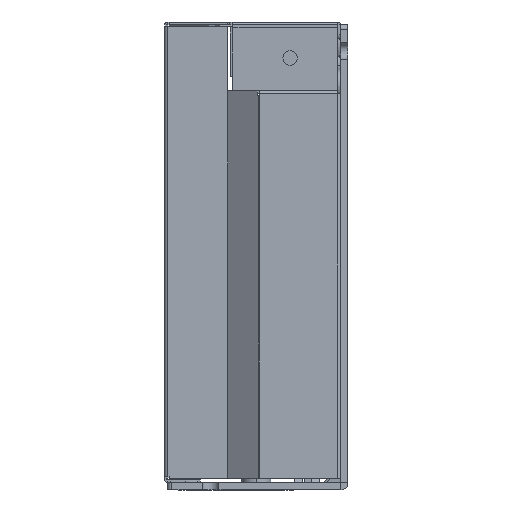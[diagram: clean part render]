
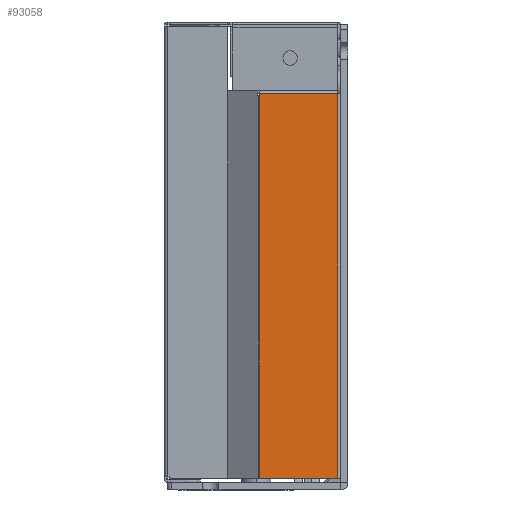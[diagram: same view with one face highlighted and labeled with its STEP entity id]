
A CAD part, left-side view. The second image highlights one B-rep face of the part: STEP entity #93058.
In plain terms, the highlighted planar face has unit normal (-1, 0, 0) as drawn and (1, 0, 0) by its records, which use the part's own axes.
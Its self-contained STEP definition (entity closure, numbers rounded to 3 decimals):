
#57410=DIRECTION('',(0.,0.,-1.));
#57411=VECTOR('',#57410,79.7);
#57412=CARTESIAN_POINT('',(80.,-35.9,-0.3));
#57413=LINE('',#57412,#57411);
#57796=DIRECTION('',(0.,-1.,0.));
#57797=VECTOR('',#57796,16.176);
#57798=CARTESIAN_POINT('',(80.,-19.724,-0.3));
#57799=LINE('',#57798,#57797);
#57803=DIRECTION('',(0.,0.,1.));
#57804=VECTOR('',#57803,0.15);
#57805=CARTESIAN_POINT('',(80.,-19.724,-80.));
#57806=LINE('',#57805,#57804);
#57810=DIRECTION('',(0.,0.,1.));
#57811=VECTOR('',#57810,79.55);
#57812=CARTESIAN_POINT('',(80.,-19.724,-79.85));
#57813=LINE('',#57812,#57811);
#57833=DIRECTION('',(0.,-1.,0.));
#57834=VECTOR('',#57833,16.176);
#57835=CARTESIAN_POINT('',(80.,-19.724,-80.));
#57836=LINE('',#57835,#57834);
#75054=CARTESIAN_POINT('',(80.,-19.724,-0.3));
#75055=VERTEX_POINT('',#75054);
#75056=CARTESIAN_POINT('',(80.,-35.9,-0.3));
#75057=VERTEX_POINT('',#75056);
#75062=CARTESIAN_POINT('',(80.,-35.9,-80.));
#75063=VERTEX_POINT('',#75062);
#80343=CARTESIAN_POINT('',(80.,-19.724,-80.));
#80344=CARTESIAN_POINT('',(80.,-19.724,-79.85));
#80345=VERTEX_POINT('',#80343);
#80346=VERTEX_POINT('',#80344);
#93044=CARTESIAN_POINT('',(80.,-19.724,-94.));
#93045=DIRECTION('',(-1.,0.,0.));
#93046=DIRECTION('',(0.,-1.,0.));
#93047=AXIS2_PLACEMENT_3D('',#93044,#93045,#93046);
#93048=PLANE('',#93047);
#93049=ORIENTED_EDGE('',*,*,#92663,.F.);
#93051=ORIENTED_EDGE('',*,*,#93050,.T.);
#93052=ORIENTED_EDGE('',*,*,#92738,.F.);
#93053=ORIENTED_EDGE('',*,*,#93038,.F.);
#93055=ORIENTED_EDGE('',*,*,#93054,.F.);
#93056=EDGE_LOOP('',(#93049,#93051,#93052,#93053,#93055));
#93057=FACE_OUTER_BOUND('',#93056,.F.);
#92663=EDGE_CURVE('',#80345,#80346,#57806,.T.);
#92738=EDGE_CURVE('',#75057,#75063,#57413,.T.);
#93038=EDGE_CURVE('',#75055,#75057,#57799,.T.);
#93050=EDGE_CURVE('',#80345,#75063,#57836,.T.);
#93054=EDGE_CURVE('',#80346,#75055,#57813,.T.);
#93058=ADVANCED_FACE('',(#93057),#93048,.F.);
